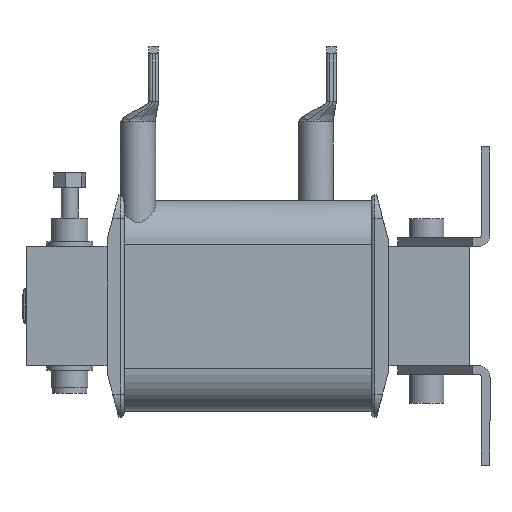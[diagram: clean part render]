
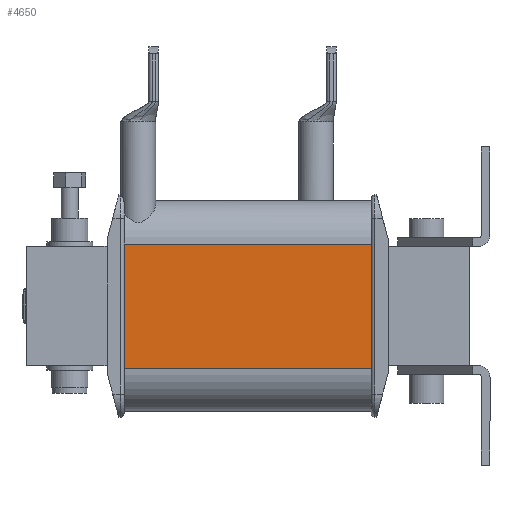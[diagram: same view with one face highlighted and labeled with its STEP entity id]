
A CAD part, left-side view. The second image highlights one B-rep face of the part: STEP entity #4650.
In plain terms, the highlighted planar face has unit normal (-1, 0, 0).
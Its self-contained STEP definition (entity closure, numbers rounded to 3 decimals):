
#483 = DIRECTION ( 'NONE',  ( 0., 0., 1. ) ) ;
#513 = VECTOR ( 'NONE', #5128, 1000. ) ;
#1036 = LINE ( 'NONE', #8964, #513 ) ;
#1395 = ORIENTED_EDGE ( 'NONE', *, *, #5621, .F. ) ;
#1479 = CARTESIAN_POINT ( 'NONE',  ( -89.9, 126.85, -21.5 ) ) ;
#1634 = AXIS2_PLACEMENT_3D ( 'NONE', #1479, #2441, #7905 ) ;
#2441 = DIRECTION ( 'NONE',  ( 1., 0., 0. ) ) ;
#3335 = CARTESIAN_POINT ( 'NONE',  ( -89.9, 126.85, -21.5 ) ) ;
#4650 = ADVANCED_FACE ( 'NONE', ( #6824 ), #5306, .F. ) ;
#5128 = DIRECTION ( 'NONE',  ( 0., -1., 0. ) ) ;
#5306 = PLANE ( 'NONE',  #1634 ) ;
#5400 = DIRECTION ( 'NONE',  ( 0., -1., 0. ) ) ;
#5572 = VERTEX_POINT ( 'NONE', #16313 ) ;
#5621 = EDGE_CURVE ( 'NONE', #5572, #7123, #11100, .T. ) ;
#6131 = EDGE_CURVE ( 'NONE', #7123, #15512, #1036, .T. ) ;
#6824 = FACE_OUTER_BOUND ( 'NONE', #6916, .T. ) ;
#6916 = EDGE_LOOP ( 'NONE', ( #9782, #12958, #1395, #12674 ) ) ;
#6957 = VECTOR ( 'NONE', #12470, 1000. ) ;
#7067 = VECTOR ( 'NONE', #483, 1000. ) ;
#7123 = VERTEX_POINT ( 'NONE', #8614 ) ;
#7905 = DIRECTION ( 'NONE',  ( 0., 0., -1. ) ) ;
#8614 = CARTESIAN_POINT ( 'NONE',  ( -89.9, 126.85, 21.5 ) ) ;
#8964 = CARTESIAN_POINT ( 'NONE',  ( -89.9, 126.85, 21.5 ) ) ;
#9713 = LINE ( 'NONE', #12557, #6957 ) ;
#9782 = ORIENTED_EDGE ( 'NONE', *, *, #16396, .T. ) ;
#10420 = CARTESIAN_POINT ( 'NONE',  ( -89.9, 41.15, 21.5 ) ) ;
#10652 = CARTESIAN_POINT ( 'NONE',  ( -89.9, 126.85, -21.5 ) ) ;
#11100 = LINE ( 'NONE', #3335, #7067 ) ;
#11520 = VECTOR ( 'NONE', #5400, 1000. ) ;
#12470 = DIRECTION ( 'NONE',  ( 0., 0., 1. ) ) ;
#12557 = CARTESIAN_POINT ( 'NONE',  ( -89.9, 41.15, -21.5 ) ) ;
#12674 = ORIENTED_EDGE ( 'NONE', *, *, #16856, .T. ) ;
#12958 = ORIENTED_EDGE ( 'NONE', *, *, #6131, .F. ) ;
#13885 = VERTEX_POINT ( 'NONE', #14212 ) ;
#14212 = CARTESIAN_POINT ( 'NONE',  ( -89.9, 41.15, -21.5 ) ) ;
#14803 = LINE ( 'NONE', #10652, #11520 ) ;
#15512 = VERTEX_POINT ( 'NONE', #10420 ) ;
#16313 = CARTESIAN_POINT ( 'NONE',  ( -89.9, 126.85, -21.5 ) ) ;
#16396 = EDGE_CURVE ( 'NONE', #13885, #15512, #9713, .T. ) ;
#16856 = EDGE_CURVE ( 'NONE', #5572, #13885, #14803, .T. ) ;
